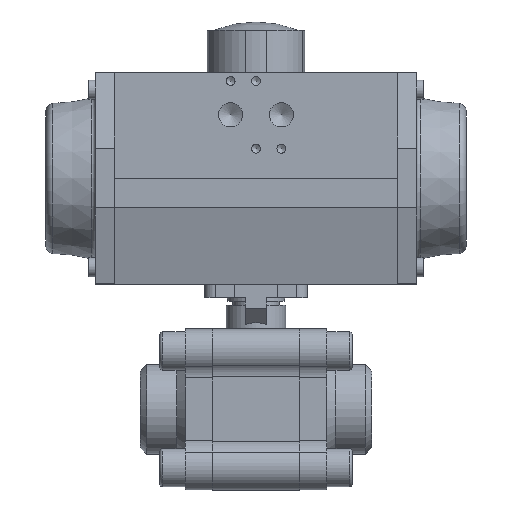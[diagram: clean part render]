
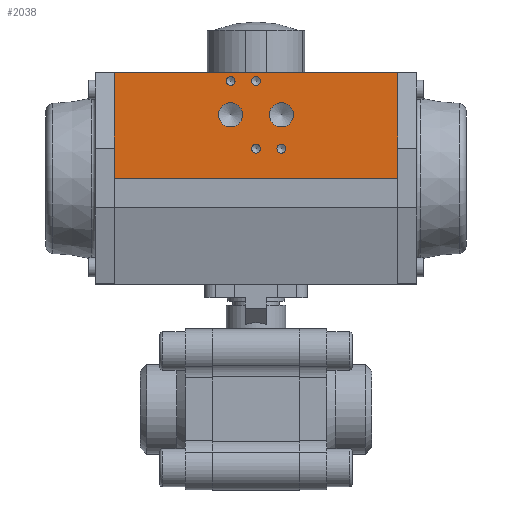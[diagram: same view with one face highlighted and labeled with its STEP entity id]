
A CAD part, top view. The second image highlights one B-rep face of the part: STEP entity #2038.
In plain terms, the highlighted planar face has unit normal (0, 0, 1) as drawn and (1, 0, 0) by its records, which use the part's own axes.
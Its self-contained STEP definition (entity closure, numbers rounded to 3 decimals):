
#71 = CARTESIAN_POINT ( 'NONE',  ( 49.5, 30., 12. ) ) ;
#137 = DIRECTION ( 'NONE',  ( 0., 0., -1. ) ) ;
#223 = CARTESIAN_POINT ( 'NONE',  ( 49.5, 46., 9.9 ) ) ;
#231 = CARTESIAN_POINT ( 'NONE',  ( 49.5, 46., 0. ) ) ;
#400 = DIRECTION ( 'NONE',  ( 1., 0., 0. ) ) ;
#438 = LINE ( 'NONE', #8750, #2646 ) ;
#554 = CARTESIAN_POINT ( 'NONE',  ( 49.5, 0., -67. ) ) ;
#1117 = FACE_BOUND ( 'NONE', #5985, .T. ) ;
#1194 = EDGE_CURVE ( 'NONE', #3448, #10345, #2583, .T. ) ;
#1249 = FACE_BOUND ( 'NONE', #10813, .T. ) ;
#1298 = CARTESIAN_POINT ( 'NONE',  ( 49.5, 0., 67. ) ) ;
#1399 = EDGE_CURVE ( 'NONE', #4695, #4695, #5514, .T. ) ;
#1425 = CARTESIAN_POINT ( 'NONE',  ( 49.5, 14., 0. ) ) ;
#1888 = EDGE_LOOP ( 'NONE', ( #5541 ) ) ;
#1901 = CARTESIAN_POINT ( 'NONE',  ( 49.5, 0., -67. ) ) ;
#2038 = ADVANCED_FACE ( 'NONE', ( #2043, #11347, #5820, #2101, #1249, #1117, #5873 ), #3049, .T. ) ;
#2043 = FACE_BOUND ( 'NONE', #6107, .T. ) ;
#2052 = DIRECTION ( 'NONE',  ( 1., 0., 0. ) ) ;
#2101 = FACE_BOUND ( 'NONE', #7302, .T. ) ;
#2330 = CARTESIAN_POINT ( 'NONE',  ( 49.5, 30., 6.277 ) ) ;
#2492 = DIRECTION ( 'NONE',  ( 0., 0., -1. ) ) ;
#2555 = DIRECTION ( 'NONE',  ( 1., 0., 0. ) ) ;
#2559 = DIRECTION ( 'NONE',  ( 0., 1., 0. ) ) ;
#2583 = LINE ( 'NONE', #5356, #5316 ) ;
#2646 = VECTOR ( 'NONE', #5799, 1000. ) ;
#3049 = PLANE ( 'NONE',  #8053 ) ;
#3307 = ORIENTED_EDGE ( 'NONE', *, *, #9619, .F. ) ;
#3387 = DIRECTION ( 'NONE',  ( 1., 0., 0. ) ) ;
#3448 = VERTEX_POINT ( 'NONE', #1298 ) ;
#3468 = DIRECTION ( 'NONE',  ( 0., 0., -1. ) ) ;
#3553 = EDGE_LOOP ( 'NONE', ( #8381, #10484, #8782, #8994 ) ) ;
#3686 = EDGE_CURVE ( 'NONE', #10565, #10565, #10802, .T. ) ;
#3748 = DIRECTION ( 'NONE',  ( 1., 0., 0. ) ) ;
#3906 = DIRECTION ( 'NONE',  ( 0., 0., -1. ) ) ;
#3936 = ORIENTED_EDGE ( 'NONE', *, *, #4441, .F. ) ;
#4073 = CIRCLE ( 'NONE', #7882, 5.723 ) ;
#4410 = ORIENTED_EDGE ( 'NONE', *, *, #6621, .F. ) ;
#4441 = EDGE_CURVE ( 'NONE', #5158, #5158, #11576, .T. ) ;
#4451 = CARTESIAN_POINT ( 'NONE',  ( 49.5, 46., -2.1 ) ) ;
#4499 = CARTESIAN_POINT ( 'NONE',  ( 49.5, 50., -67. ) ) ;
#4528 = DIRECTION ( 'NONE',  ( 1., 0., 0. ) ) ;
#4695 = VERTEX_POINT ( 'NONE', #4451 ) ;
#5158 = VERTEX_POINT ( 'NONE', #10624 ) ;
#5211 = AXIS2_PLACEMENT_3D ( 'NONE', #6203, #4528, #9175 ) ;
#5219 = DIRECTION ( 'NONE',  ( 0., 0., -1. ) ) ;
#5228 = VECTOR ( 'NONE', #2559, 1000. ) ;
#5316 = VECTOR ( 'NONE', #8100, 1000. ) ;
#5356 = CARTESIAN_POINT ( 'NONE',  ( 49.5, 0., 67. ) ) ;
#5514 = CIRCLE ( 'NONE', #5703, 2.1 ) ;
#5541 = ORIENTED_EDGE ( 'NONE', *, *, #7379, .F. ) ;
#5703 = AXIS2_PLACEMENT_3D ( 'NONE', #231, #2052, #3906 ) ;
#5799 = DIRECTION ( 'NONE',  ( 0., 0., 1. ) ) ;
#5820 = FACE_BOUND ( 'NONE', #8967, .T. ) ;
#5873 = FACE_OUTER_BOUND ( 'NONE', #3553, .T. ) ;
#5985 = EDGE_LOOP ( 'NONE', ( #8202 ) ) ;
#6107 = EDGE_LOOP ( 'NONE', ( #3307 ) ) ;
#6156 = VERTEX_POINT ( 'NONE', #7112 ) ;
#6203 = CARTESIAN_POINT ( 'NONE',  ( 49.5, 14., -12. ) ) ;
#6621 = EDGE_CURVE ( 'NONE', #8131, #8131, #4073, .T. ) ;
#6654 = CARTESIAN_POINT ( 'NONE',  ( 49.5, 0., -67. ) ) ;
#6964 = EDGE_CURVE ( 'NONE', #11034, #8177, #8330, .T. ) ;
#7109 = CIRCLE ( 'NONE', #5211, 2.1 ) ;
#7112 = CARTESIAN_POINT ( 'NONE',  ( 49.5, 14., -14.1 ) ) ;
#7302 = EDGE_LOOP ( 'NONE', ( #7567 ) ) ;
#7379 = EDGE_CURVE ( 'NONE', #6156, #6156, #7109, .T. ) ;
#7567 = ORIENTED_EDGE ( 'NONE', *, *, #1399, .F. ) ;
#7697 = CARTESIAN_POINT ( 'NONE',  ( 49.5, 50., 67. ) ) ;
#7882 = AXIS2_PLACEMENT_3D ( 'NONE', #8910, #8035, #3468 ) ;
#7884 = LINE ( 'NONE', #554, #10897 ) ;
#8035 = DIRECTION ( 'NONE',  ( 1., 0., 0. ) ) ;
#8053 = AXIS2_PLACEMENT_3D ( 'NONE', #6654, #400, #8593 ) ;
#8100 = DIRECTION ( 'NONE',  ( 0., 1., 0. ) ) ;
#8131 = VERTEX_POINT ( 'NONE', #11673 ) ;
#8177 = VERTEX_POINT ( 'NONE', #4499 ) ;
#8202 = ORIENTED_EDGE ( 'NONE', *, *, #3686, .F. ) ;
#8330 = LINE ( 'NONE', #1901, #5228 ) ;
#8381 = ORIENTED_EDGE ( 'NONE', *, *, #11623, .T. ) ;
#8404 = VERTEX_POINT ( 'NONE', #223 ) ;
#8548 = CARTESIAN_POINT ( 'NONE',  ( 49.5, 0., -67. ) ) ;
#8593 = DIRECTION ( 'NONE',  ( 0., 1., 0. ) ) ;
#8750 = CARTESIAN_POINT ( 'NONE',  ( 49.5, 50., -67. ) ) ;
#8782 = ORIENTED_EDGE ( 'NONE', *, *, #11530, .F. ) ;
#8910 = CARTESIAN_POINT ( 'NONE',  ( 49.5, 30., -12. ) ) ;
#8967 = EDGE_LOOP ( 'NONE', ( #3936 ) ) ;
#8994 = ORIENTED_EDGE ( 'NONE', *, *, #6964, .T. ) ;
#9175 = DIRECTION ( 'NONE',  ( 0., 0., -1. ) ) ;
#9619 = EDGE_CURVE ( 'NONE', #8404, #8404, #10319, .T. ) ;
#9689 = AXIS2_PLACEMENT_3D ( 'NONE', #1425, #2555, #5219 ) ;
#10319 = CIRCLE ( 'NONE', #11643, 2.1 ) ;
#10345 = VERTEX_POINT ( 'NONE', #7697 ) ;
#10431 = DIRECTION ( 'NONE',  ( 0., 0., 1. ) ) ;
#10484 = ORIENTED_EDGE ( 'NONE', *, *, #1194, .F. ) ;
#10565 = VERTEX_POINT ( 'NONE', #2330 ) ;
#10624 = CARTESIAN_POINT ( 'NONE',  ( 49.5, 14., -2.1 ) ) ;
#10802 = CIRCLE ( 'NONE', #11198, 5.722 ) ;
#10813 = EDGE_LOOP ( 'NONE', ( #4410 ) ) ;
#10897 = VECTOR ( 'NONE', #10431, 1000. ) ;
#11034 = VERTEX_POINT ( 'NONE', #8548 ) ;
#11198 = AXIS2_PLACEMENT_3D ( 'NONE', #71, #3748, #137 ) ;
#11347 = FACE_BOUND ( 'NONE', #1888, .T. ) ;
#11530 = EDGE_CURVE ( 'NONE', #11034, #3448, #7884, .T. ) ;
#11576 = CIRCLE ( 'NONE', #9689, 2.1 ) ;
#11607 = CARTESIAN_POINT ( 'NONE',  ( 49.5, 46., 12. ) ) ;
#11623 = EDGE_CURVE ( 'NONE', #8177, #10345, #438, .T. ) ;
#11643 = AXIS2_PLACEMENT_3D ( 'NONE', #11607, #3387, #2492 ) ;
#11673 = CARTESIAN_POINT ( 'NONE',  ( 49.5, 30., -17.723 ) ) ;
